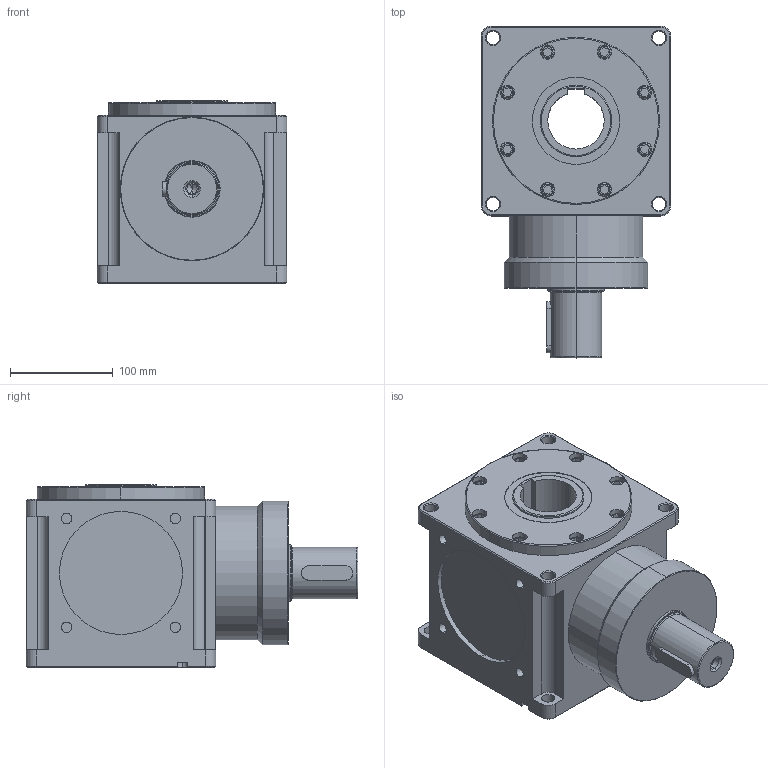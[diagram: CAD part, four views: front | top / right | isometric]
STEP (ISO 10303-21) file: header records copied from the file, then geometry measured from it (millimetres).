
FILE_DESCRIPTION (( 'STEP AP214' ), '1' );
FILE_NAME ('CCT185A-002-CR.STEP', '2025-05-26T05:10:38', ( '微软用户' ), ( '微软中国' ), 'SwSTEP 2.0', 'SolidWorks 2024', '' );
FILE_SCHEMA (( 'AUTOMOTIVE_DESIGN' ));
Length unit declared in the file: millimetre
Products named in the file (1): CCT185A-002-CR
Bounding box: 185 x 323.5 x 178 mm (x, y, z)
Volume: 5963852.9 mm3; surface area: 296001.2 mm2
Topology: 1 solids, 1 shells, 324 faces, 749 edges, 475 vertices
Faces by surface type: plane 142, cylinder 122, cone 34, torus 26
Entity records: 9346 total; most frequent: DIRECTION 1723, CARTESIAN_POINT 1631, ORIENTED_EDGE 1494, EDGE_CURVE 747, AXIS2_PLACEMENT_3D 653, VERTEX_POINT 475, VECTOR 417, LINE 417
